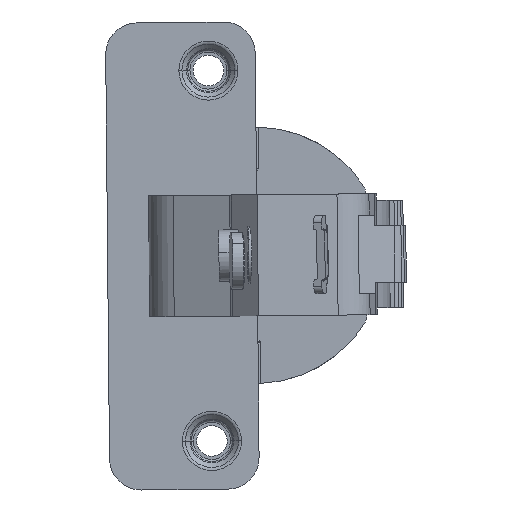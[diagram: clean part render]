
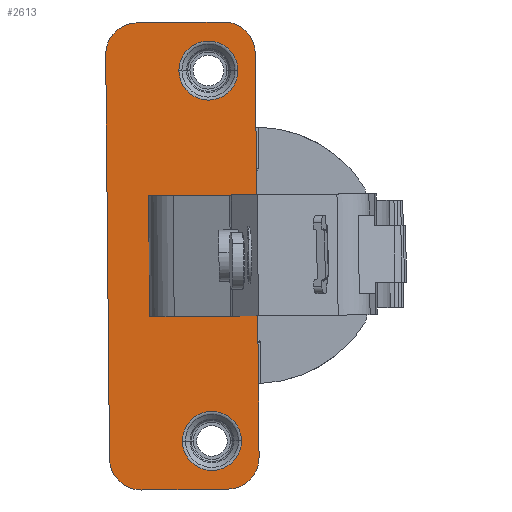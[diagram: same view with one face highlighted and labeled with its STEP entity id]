
A CAD part, left-side view. The second image highlights one B-rep face of the part: STEP entity #2613.
In plain terms, the highlighted planar face has unit normal (-1, 0, 0).
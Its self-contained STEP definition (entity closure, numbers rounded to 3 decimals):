
#80 = VERTEX_POINT ( 'NONE', #6604 ) ;
#137 = ORIENTED_EDGE ( 'NONE', *, *, #7467, .T. ) ;
#168 = CARTESIAN_POINT ( 'NONE',  ( -3., 42.009, -46.628 ) ) ;
#209 = DIRECTION ( 'NONE',  ( -1., 0., 0. ) ) ;
#236 = CARTESIAN_POINT ( 'NONE',  ( -3., 41.967, -51.092 ) ) ;
#244 = DIRECTION ( 'NONE',  ( 0., -1., 0. ) ) ;
#303 = EDGE_CURVE ( 'NONE', #871, #740, #5108, .T. ) ;
#324 = ORIENTED_EDGE ( 'NONE', *, *, #1517, .T. ) ;
#336 = LINE ( 'NONE', #1936, #1960 ) ;
#387 = VECTOR ( 'NONE', #7367, 1000. ) ;
#546 = CARTESIAN_POINT ( 'NONE',  ( -3., 27.946, -44.16 ) ) ;
#557 = EDGE_CURVE ( 'NONE', #2438, #1683, #3145, .T. ) ;
#651 = AXIS2_PLACEMENT_3D ( 'NONE', #4686, #209, #1497 ) ;
#650 = DIRECTION ( 'NONE',  ( -1., 0., 0. ) ) ;
#705 = DIRECTION ( 'NONE',  ( -1., 0., 0. ) ) ;
#736 = CARTESIAN_POINT ( 'NONE',  ( -3., 32.095, -44.199 ) ) ;
#740 = VERTEX_POINT ( 'NONE', #5491 ) ;
#770 = DIRECTION ( 'NONE',  ( 0., 1., -0.009 ) ) ;
#779 = DIRECTION ( 'NONE',  ( 0., -1., 0.009 ) ) ;
#813 = LINE ( 'NONE', #4735, #1003 ) ;
#871 = VERTEX_POINT ( 'NONE', #8086 ) ;
#1003 = VECTOR ( 'NONE', #770, 1000. ) ;
#1025 = DIRECTION ( 'NONE',  ( 0., -1., 0. ) ) ;
#1038 = CIRCLE ( 'NONE', #1451, 4.464 ) ;
#1092 = DIRECTION ( 'NONE',  ( 0., 0.009, 1. ) ) ;
#1259 = LINE ( 'NONE', #3258, #5058 ) ;
#1261 = DIRECTION ( 'NONE',  ( 0., -1., 0. ) ) ;
#1346 = AXIS2_PLACEMENT_3D ( 'NONE', #168, #5420, #2152 ) ;
#1368 = ORIENTED_EDGE ( 'NONE', *, *, #2722, .T. ) ;
#1370 = CIRCLE ( 'NONE', #7831, 4.149 ) ;
#1451 = AXIS2_PLACEMENT_3D ( 'NONE', #2962, #5538, #244 ) ;
#1497 = DIRECTION ( 'NONE',  ( 0., -1., 0. ) ) ;
#1514 = LINE ( 'NONE', #2809, #387 ) ;
#1517 = EDGE_CURVE ( 'NONE', #3498, #2438, #1259, .T. ) ;
#1522 = ORIENTED_EDGE ( 'NONE', *, *, #303, .T. ) ;
#1619 = VECTOR ( 'NONE', #1832, 1000. ) ;
#1683 = VERTEX_POINT ( 'NONE', #236 ) ;
#1692 = VERTEX_POINT ( 'NONE', #3510 ) ;
#1754 = CARTESIAN_POINT ( 'NONE',  ( -3., 28.434, 7.838 ) ) ;
#1804 = ORIENTED_EDGE ( 'NONE', *, *, #5742, .T. ) ;
#1832 = DIRECTION ( 'NONE',  ( 0., 1., -0.009 ) ) ;
#1862 = EDGE_CURVE ( 'NONE', #5123, #5531, #3144, .T. ) ;
#1936 = CARTESIAN_POINT ( 'NONE',  ( -3., 26.004, 10.197 ) ) ;
#1960 = VECTOR ( 'NONE', #4731, 1000. ) ;
#1969 = EDGE_CURVE ( 'NONE', #8352, #2121, #1514, .T. ) ;
#1975 = CARTESIAN_POINT ( 'NONE',  ( -3., 46.472, -46.67 ) ) ;
#2079 = LINE ( 'NONE', #7327, #4522 ) ;
#2092 = DIRECTION ( 'NONE',  ( 0., -1., 0.009 ) ) ;
#2093 = EDGE_CURVE ( 'NONE', #1692, #3634, #8346, .T. ) ;
#2118 = ORIENTED_EDGE ( 'NONE', *, *, #557, .T. ) ;
#2121 = VERTEX_POINT ( 'NONE', #6891 ) ;
#2122 = DIRECTION ( 'NONE',  ( 0., -1., 0.009 ) ) ;
#2152 = DIRECTION ( 'NONE',  ( 0., -1., 0.009 ) ) ;
#2386 = EDGE_LOOP ( 'NONE', ( #6549, #137, #6533, #5303, #1368, #1522, #2471, #324, #2118, #2599, #8147, #1804, #3036 ) ) ;
#2396 = CARTESIAN_POINT ( 'NONE',  ( -3., 26.004, 10.197 ) ) ;
#2438 = VERTEX_POINT ( 'NONE', #1975 ) ;
#2471 = ORIENTED_EDGE ( 'NONE', *, *, #7260, .T. ) ;
#2488 = CARTESIAN_POINT ( 'NONE',  ( -3., 42.582, 14.505 ) ) ;
#2595 = CARTESIAN_POINT ( 'NONE',  ( -3., 40.082, -104.989 ) ) ;
#2599 = ORIENTED_EDGE ( 'NONE', *, *, #3186, .T. ) ;
#2611 = CIRCLE ( 'NONE', #7413, 4.464 ) ;
#2613 = ADVANCED_FACE ( 'NONE', ( #7576, #6740, #4082 ), #6703, .T. ) ;
#2693 = DIRECTION ( 'NONE',  ( 0., -1., 0. ) ) ;
#2722 = EDGE_CURVE ( 'NONE', #3045, #871, #6302, .T. ) ;
#2809 = CARTESIAN_POINT ( 'NONE',  ( -3., 25.659, -26.638 ) ) ;
#2940 = EDGE_CURVE ( 'NONE', #4219, #3045, #5057, .T. ) ;
#2952 = EDGE_LOOP ( 'NONE', ( #3407, #5894 ) ) ;
#2955 = CARTESIAN_POINT ( 'NONE',  ( -3., 26.004, 10.197 ) ) ;
#2962 = CARTESIAN_POINT ( 'NONE',  ( -3., 29.937, -46.515 ) ) ;
#3036 = ORIENTED_EDGE ( 'NONE', *, *, #7029, .T. ) ;
#3045 = VERTEX_POINT ( 'NONE', #2955 ) ;
#3144 = CIRCLE ( 'NONE', #7675, 4.149 ) ;
#3145 = CIRCLE ( 'NONE', #651, 4.464 ) ;
#3186 = EDGE_CURVE ( 'NONE', #1683, #3588, #2079, .T. ) ;
#3258 = CARTESIAN_POINT ( 'NONE',  ( -3., 46.472, -46.67 ) ) ;
#3388 = DIRECTION ( 'NONE',  ( 0., -1., 0.009 ) ) ;
#3407 = ORIENTED_EDGE ( 'NONE', *, *, #1862, .F. ) ;
#3498 = VERTEX_POINT ( 'NONE', #4807 ) ;
#3510 = CARTESIAN_POINT ( 'NONE',  ( -3., 36.731, 7.76 ) ) ;
#3559 = CARTESIAN_POINT ( 'NONE',  ( -3., 32.095, -44.199 ) ) ;
#3588 = VERTEX_POINT ( 'NONE', #4982 ) ;
#3634 = VERTEX_POINT ( 'NONE', #1754 ) ;
#3680 = EDGE_CURVE ( 'NONE', #3588, #4468, #2611, .T. ) ;
#3788 = ORIENTED_EDGE ( 'NONE', *, *, #2093, .T. ) ;
#3837 = EDGE_CURVE ( 'NONE', #5531, #5123, #1370, .T. ) ;
#3968 = VECTOR ( 'NONE', #1092, 1000. ) ;
#4082 = FACE_OUTER_BOUND ( 'NONE', #2386, .T. ) ;
#4219 = VERTEX_POINT ( 'NONE', #4907 ) ;
#4468 = VERTEX_POINT ( 'NONE', #7902 ) ;
#4522 = VECTOR ( 'NONE', #779, 1000. ) ;
#4643 = AXIS2_PLACEMENT_3D ( 'NONE', #5390, #8010, #2122 ) ;
#4686 = CARTESIAN_POINT ( 'NONE',  ( -3., 42.009, -46.628 ) ) ;
#4731 = DIRECTION ( 'NONE',  ( 0., 0.009, 1. ) ) ;
#4735 = CARTESIAN_POINT ( 'NONE',  ( -3., 25.818, -9.639 ) ) ;
#4807 = CARTESIAN_POINT ( 'NONE',  ( -3., 47.003, 10. ) ) ;
#4819 = VERTEX_POINT ( 'NONE', #7002 ) ;
#4907 = CARTESIAN_POINT ( 'NONE',  ( -3., 25.818, -9.639 ) ) ;
#4982 = CARTESIAN_POINT ( 'NONE',  ( -3., 29.895, -50.979 ) ) ;
#5057 = LINE ( 'NONE', #2396, #3968 ) ;
#5058 = VECTOR ( 'NONE', #5836, 1000. ) ;
#5108 = LINE ( 'NONE', #2488, #1619 ) ;
#5123 = VERTEX_POINT ( 'NONE', #546 ) ;
#5202 = AXIS2_PLACEMENT_3D ( 'NONE', #7161, #5879, #2693 ) ;
#5216 = DIRECTION ( 'NONE',  ( 0., 0.009, 1. ) ) ;
#5252 = CIRCLE ( 'NONE', #6756, 4.149 ) ;
#5303 = ORIENTED_EDGE ( 'NONE', *, *, #2940, .T. ) ;
#5390 = CARTESIAN_POINT ( 'NONE',  ( -3., 32.582, 7.799 ) ) ;
#5420 = DIRECTION ( 'NONE',  ( -1., 0., 0. ) ) ;
#5491 = CARTESIAN_POINT ( 'NONE',  ( -3., 42.582, 14.505 ) ) ;
#5531 = VERTEX_POINT ( 'NONE', #6426 ) ;
#5538 = DIRECTION ( 'NONE',  ( -1., 0., 0. ) ) ;
#5689 = CIRCLE ( 'NONE', #7464, 4.464 ) ;
#5742 = EDGE_CURVE ( 'NONE', #4468, #80, #1038, .T. ) ;
#5768 = CARTESIAN_POINT ( 'NONE',  ( -3., 40.815, -26.78 ) ) ;
#5836 = DIRECTION ( 'NONE',  ( 0., -0.009, -1. ) ) ;
#5860 = LINE ( 'NONE', #2595, #7730 ) ;
#5879 = DIRECTION ( 'NONE',  ( -1., 0., 0. ) ) ;
#5894 = ORIENTED_EDGE ( 'NONE', *, *, #3837, .F. ) ;
#6302 = CIRCLE ( 'NONE', #5202, 4.464 ) ;
#6426 = CARTESIAN_POINT ( 'NONE',  ( -3., 36.243, -44.238 ) ) ;
#6449 = EDGE_CURVE ( 'NONE', #3634, #1692, #5252, .T. ) ;
#6533 = ORIENTED_EDGE ( 'NONE', *, *, #7531, .F. ) ;
#6549 = ORIENTED_EDGE ( 'NONE', *, *, #1969, .F. ) ;
#6599 = CARTESIAN_POINT ( 'NONE',  ( -3., 32.582, 7.799 ) ) ;
#6604 = CARTESIAN_POINT ( 'NONE',  ( -3., 25.473, -46.473 ) ) ;
#6627 = DIRECTION ( 'NONE',  ( 0., -1., 0.009 ) ) ;
#6643 = DIRECTION ( 'NONE',  ( 1., 0., 0. ) ) ;
#6703 = PLANE ( 'NONE',  #1346 ) ;
#6740 = FACE_BOUND ( 'NONE', #2952, .T. ) ;
#6756 = AXIS2_PLACEMENT_3D ( 'NONE', #6599, #6643, #3388 ) ;
#6891 = CARTESIAN_POINT ( 'NONE',  ( -3., 25.659, -26.638 ) ) ;
#6925 = CARTESIAN_POINT ( 'NONE',  ( -3., 42.54, 10.042 ) ) ;
#7002 = CARTESIAN_POINT ( 'NONE',  ( -3., 40.975, -9.781 ) ) ;
#7029 = EDGE_CURVE ( 'NONE', #80, #2121, #336, .T. ) ;
#7161 = CARTESIAN_POINT ( 'NONE',  ( -3., 30.468, 10.155 ) ) ;
#7260 = EDGE_CURVE ( 'NONE', #740, #3498, #5689, .T. ) ;
#7327 = CARTESIAN_POINT ( 'NONE',  ( -3., 29.895, -50.979 ) ) ;
#7367 = DIRECTION ( 'NONE',  ( 0., -1., 0.009 ) ) ;
#7413 = AXIS2_PLACEMENT_3D ( 'NONE', #7807, #705, #1261 ) ;
#7464 = AXIS2_PLACEMENT_3D ( 'NONE', #6925, #7973, #1025 ) ;
#7467 = EDGE_CURVE ( 'NONE', #8352, #4819, #5860, .T. ) ;
#7468 = ORIENTED_EDGE ( 'NONE', *, *, #6449, .T. ) ;
#7531 = EDGE_CURVE ( 'NONE', #4219, #4819, #813, .T. ) ;
#7576 = FACE_BOUND ( 'NONE', #8134, .T. ) ;
#7675 = AXIS2_PLACEMENT_3D ( 'NONE', #736, #650, #6627 ) ;
#7730 = VECTOR ( 'NONE', #5216, 1000. ) ;
#7807 = CARTESIAN_POINT ( 'NONE',  ( -3., 29.937, -46.515 ) ) ;
#7831 = AXIS2_PLACEMENT_3D ( 'NONE', #3559, #7983, #2092 ) ;
#7902 = CARTESIAN_POINT ( 'NONE',  ( -3., 25.473, -46.515 ) ) ;
#7973 = DIRECTION ( 'NONE',  ( -1., 0., 0. ) ) ;
#7983 = DIRECTION ( 'NONE',  ( -1., 0., 0. ) ) ;
#8010 = DIRECTION ( 'NONE',  ( 1., 0., 0. ) ) ;
#8086 = CARTESIAN_POINT ( 'NONE',  ( -3., 30.51, 14.618 ) ) ;
#8134 = EDGE_LOOP ( 'NONE', ( #7468, #3788 ) ) ;
#8147 = ORIENTED_EDGE ( 'NONE', *, *, #3680, .T. ) ;
#8346 = CIRCLE ( 'NONE', #4643, 4.149 ) ;
#8352 = VERTEX_POINT ( 'NONE', #5768 ) ;
